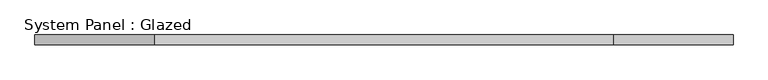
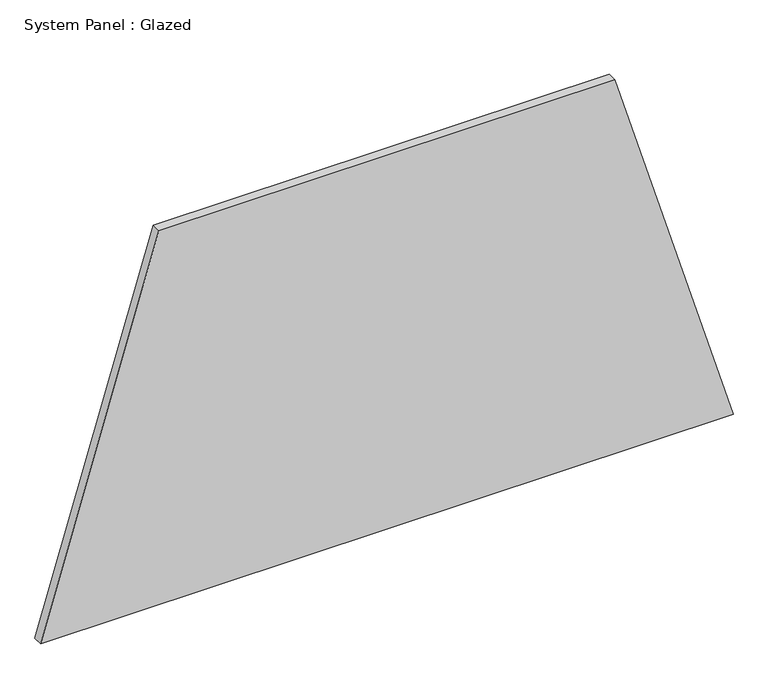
"""IFC4 building model written with IfcOpenShell, lengths in millimetres: plate geometry, System Panel : Glazed."""

from ifc_helpers import new_model, si_unit, frame, origin, place, context, project, spatial, polyline, outline, extrude, source, transform, mapped, element, save


def system_panel_glazed_0767997b(model_context):
    return source(origin(), model_context, "Body", "SweptSolid", [
        extrude(outline(polyline([(0.0, -895.3208171), (0.0, 895.3208171), (1022.0392401, 589.5463385), (1022.0392401, -589.5463385), (0.0, -895.3208171)])), frame((0.0, -44.45, 0.0), z_axis=(0.0, 1.0, 0.0), x_axis=(0.0, 0.0, 1.0)), (0.0, 0.0, 1.0), 25.4),
    ])


if __name__ == "__main__":
    model = new_model("IFC4")
    model_context = context("Model", 3, world=origin())
    ifc_project = project(units=[si_unit("LENGTHUNIT", "METRE", prefix="MILLI")], contexts=[model_context])
    site = spatial("IfcSite", under=ifc_project)
    building = spatial("IfcBuilding", under=site)
    placement = place(None, origin())
    system_panel_glazed_shape = system_panel_glazed_0767997b(model_context)
    element("IfcPlate", 1, ObjectType="System Panel : Glazed", at=placement, inside=building, context=model_context, shape_type="MappedRepresentation", body=[
        mapped(system_panel_glazed_shape, transform((0.0, 0.0, 0.0), x_axis=(1.0, 0.0, 0.0), y_axis=(0.0, 1.0, 0.0), z_axis=(0.0, 0.0, 1.0))),
    ])
    save(model, "model.ifc")
